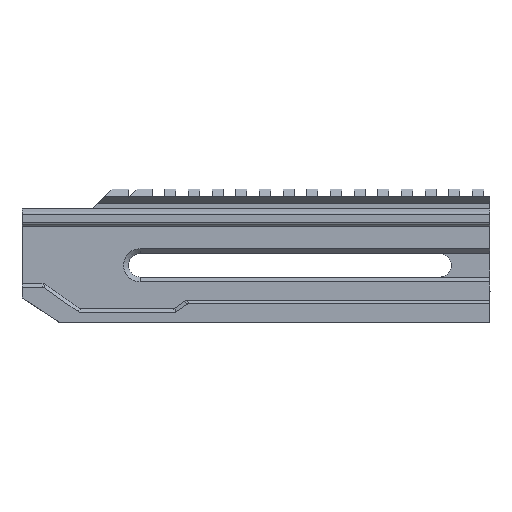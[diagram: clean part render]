
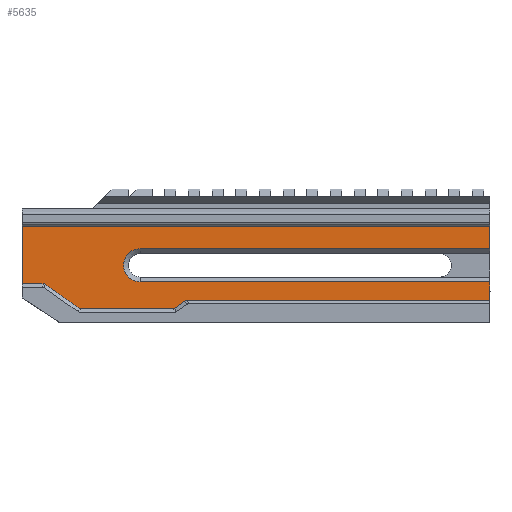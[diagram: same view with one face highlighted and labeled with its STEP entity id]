
A CAD part, left-side view. The second image highlights one B-rep face of the part: STEP entity #5635.
In plain terms, the highlighted planar face has unit normal (-1, 0, 0).
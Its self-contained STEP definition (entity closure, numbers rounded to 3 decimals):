
#314=CARTESIAN_POINT('',(-17.329,422.02,-10.298));
#315=VERTEX_POINT('',#314);
#322=CARTESIAN_POINT('',(-17.329,422.02,19.947));
#323=VERTEX_POINT('',#322);
#324=CARTESIAN_POINT('',(-17.329,422.02,19.947));
#325=DIRECTION('',(-0.,-0.,-1.));
#326=VECTOR('',#325,30.244);
#327=LINE('',#324,#326);
#328=EDGE_CURVE('',#323,#315,#327,.T.);
#763=CARTESIAN_POINT('',(-17.329,358.366,-14.821));
#764=VERTEX_POINT('',#763);
#765=CARTESIAN_POINT('',(-17.329,396.819,-14.821));
#766=VERTEX_POINT('',#765);
#767=CARTESIAN_POINT('',(-17.329,358.366,-14.821));
#768=DIRECTION('',(0.,1.,0.));
#769=VECTOR('',#768,38.453);
#770=LINE('',#767,#769);
#771=EDGE_CURVE('',#764,#766,#770,.T.);
#813=CARTESIAN_POINT('',(-17.329,397.966,-14.46));
#814=VERTEX_POINT('',#813);
#821=CARTESIAN_POINT('',(-17.329,412.001,-4.632));
#822=VERTEX_POINT('',#821);
#823=CARTESIAN_POINT('',(-17.329,397.966,-14.46));
#824=DIRECTION('',(0.,0.819,0.574));
#825=VECTOR('',#824,17.134);
#826=LINE('',#823,#825);
#827=EDGE_CURVE('',#814,#822,#826,.T.);
#853=CARTESIAN_POINT('',(-17.329,413.148,-4.271));
#854=VERTEX_POINT('',#853);
#861=CARTESIAN_POINT('',(-17.329,422.018,-4.271));
#862=VERTEX_POINT('',#861);
#863=CARTESIAN_POINT('',(-17.329,413.148,-4.271));
#864=DIRECTION('',(0.,1.,0.));
#865=VECTOR('',#864,8.869);
#866=LINE('',#863,#865);
#867=EDGE_CURVE('',#854,#862,#866,.T.);
#1065=CARTESIAN_POINT('',(-17.329,422.018,-10.299));
#1066=VERTEX_POINT('',#1065);
#1067=CARTESIAN_POINT('',(-17.329,422.018,-4.271));
#1068=DIRECTION('',(0.,0.,-1.));
#1069=VECTOR('',#1068,6.029);
#1070=LINE('',#1067,#1069);
#1071=EDGE_CURVE('',#862,#1066,#1070,.T.);
#1214=CARTESIAN_POINT('',(-17.329,422.02,-10.298));
#1215=DIRECTION('',(0.,-0.839,-0.545));
#1216=VECTOR('',#1215,0.003);
#1217=LINE('',#1214,#1216);
#1218=EDGE_CURVE('',#315,#1066,#1217,.T.);
#1515=CARTESIAN_POINT('',(-17.329,353.171,-11.625));
#1516=VERTEX_POINT('',#1515);
#1523=CARTESIAN_POINT('',(-17.329,357.219,-14.46));
#1524=VERTEX_POINT('',#1523);
#1525=CARTESIAN_POINT('',(-17.329,353.171,-11.625));
#1526=DIRECTION('',(0.,0.819,-0.574));
#1527=VECTOR('',#1526,4.942);
#1528=LINE('',#1525,#1527);
#1529=EDGE_CURVE('',#1516,#1524,#1528,.T.);
#4298=CARTESIAN_POINT('',(-17.329,224.32,-11.264));
#4299=VERTEX_POINT('',#4298);
#4300=CARTESIAN_POINT('',(-17.329,352.024,-11.264));
#4301=VERTEX_POINT('',#4300);
#4302=CARTESIAN_POINT('',(-17.329,224.32,-11.264));
#4303=DIRECTION('',(0.,1.,0.));
#4304=VECTOR('',#4303,127.704);
#4305=LINE('',#4302,#4304);
#4306=EDGE_CURVE('',#4299,#4301,#4305,.T.);
#5533=CARTESIAN_POINT('',(-17.329,224.32,19.947));
#5534=VERTEX_POINT('',#5533);
#5535=CARTESIAN_POINT('',(-17.329,422.02,19.947));
#5536=DIRECTION('',(-0.,-1.,-0.));
#5537=VECTOR('',#5536,197.7);
#5538=LINE('',#5535,#5537);
#5539=EDGE_CURVE('',#323,#5534,#5538,.T.);
#5552=CARTESIAN_POINT('',(-17.329,456.,-13.624));
#5553=DIRECTION('',(-1.,0.,0.));
#5554=DIRECTION('',(0.,0.,1.));
#5555=AXIS2_PLACEMENT_3D('',#5552,#5553,#5554);
#5556=PLANE('',#5555);
#5557=CARTESIAN_POINT('',(-17.329,224.32,-3.483));
#5558=VERTEX_POINT('',#5557);
#5559=CARTESIAN_POINT('',(-17.329,224.32,-3.483));
#5560=DIRECTION('',(-0.,-0.,-1.));
#5561=VECTOR('',#5560,7.781);
#5562=LINE('',#5559,#5561);
#5563=EDGE_CURVE('',#5558,#4299,#5562,.T.);
#5564=ORIENTED_EDGE('',*,*,#5563,.F.);
#5565=CARTESIAN_POINT('',(-17.329,372.111,-3.483));
#5566=VERTEX_POINT('',#5565);
#5567=CARTESIAN_POINT('',(-17.329,224.32,-3.483));
#5568=DIRECTION('',(0.,1.,0.));
#5569=VECTOR('',#5568,147.791);
#5570=LINE('',#5567,#5569);
#5571=EDGE_CURVE('',#5558,#5566,#5570,.T.);
#5572=ORIENTED_EDGE('',*,*,#5571,.T.);
#5573=CARTESIAN_POINT('',(-17.329,372.111,10.517));
#5574=VERTEX_POINT('',#5573);
#5575=CARTESIAN_POINT('',(-17.329,372.111,3.517));
#5576=DIRECTION('',(1.,-0.,-0.));
#5577=DIRECTION('',(0.,0.,1.));
#5578=AXIS2_PLACEMENT_3D('',#5575,#5576,#5577);
#5579=CIRCLE('',#5578,7.);
#5580=EDGE_CURVE('',#5566,#5574,#5579,.T.);
#5581=ORIENTED_EDGE('',*,*,#5580,.T.);
#5582=CARTESIAN_POINT('',(-17.329,224.32,10.517));
#5583=VERTEX_POINT('',#5582);
#5584=CARTESIAN_POINT('',(-17.329,372.111,10.517));
#5585=DIRECTION('',(-0.,-1.,-0.));
#5586=VECTOR('',#5585,147.791);
#5587=LINE('',#5584,#5586);
#5588=EDGE_CURVE('',#5574,#5583,#5587,.T.);
#5589=ORIENTED_EDGE('',*,*,#5588,.T.);
#5590=CARTESIAN_POINT('',(-17.329,224.32,19.947));
#5591=DIRECTION('',(-0.,-0.,-1.));
#5592=VECTOR('',#5591,9.429);
#5593=LINE('',#5590,#5592);
#5594=EDGE_CURVE('',#5534,#5583,#5593,.T.);
#5595=ORIENTED_EDGE('',*,*,#5594,.F.);
#5596=ORIENTED_EDGE('',*,*,#5539,.F.);
#5597=ORIENTED_EDGE('',*,*,#328,.T.);
#5598=ORIENTED_EDGE('',*,*,#1218,.T.);
#5599=ORIENTED_EDGE('',*,*,#1071,.F.);
#5600=ORIENTED_EDGE('',*,*,#867,.F.);
#5601=CARTESIAN_POINT('',(-17.329,413.148,-6.271));
#5602=DIRECTION('',(1.,0.,0.));
#5603=DIRECTION('',(0.,0.,-1.));
#5604=AXIS2_PLACEMENT_3D('',#5601,#5602,#5603);
#5605=CIRCLE('',#5604,2.);
#5606=EDGE_CURVE('',#854,#822,#5605,.T.);
#5607=ORIENTED_EDGE('',*,*,#5606,.T.);
#5608=ORIENTED_EDGE('',*,*,#827,.F.);
#5609=CARTESIAN_POINT('',(-17.329,396.819,-12.821));
#5610=DIRECTION('',(-1.,0.,0.));
#5611=DIRECTION('',(0.,0.,1.));
#5612=AXIS2_PLACEMENT_3D('',#5609,#5610,#5611);
#5613=CIRCLE('',#5612,2.);
#5614=EDGE_CURVE('',#814,#766,#5613,.T.);
#5615=ORIENTED_EDGE('',*,*,#5614,.T.);
#5616=ORIENTED_EDGE('',*,*,#771,.F.);
#5617=CARTESIAN_POINT('',(-17.329,358.366,-12.821));
#5618=DIRECTION('',(-1.,0.,0.));
#5619=DIRECTION('',(0.,0.,1.));
#5620=AXIS2_PLACEMENT_3D('',#5617,#5618,#5619);
#5621=CIRCLE('',#5620,2.);
#5622=EDGE_CURVE('',#764,#1524,#5621,.T.);
#5623=ORIENTED_EDGE('',*,*,#5622,.T.);
#5624=ORIENTED_EDGE('',*,*,#1529,.F.);
#5625=CARTESIAN_POINT('',(-17.329,352.024,-13.264));
#5626=DIRECTION('',(1.,0.,0.));
#5627=DIRECTION('',(0.,0.,-1.));
#5628=AXIS2_PLACEMENT_3D('',#5625,#5626,#5627);
#5629=CIRCLE('',#5628,2.);
#5630=EDGE_CURVE('',#1516,#4301,#5629,.T.);
#5631=ORIENTED_EDGE('',*,*,#5630,.T.);
#5632=ORIENTED_EDGE('',*,*,#4306,.F.);
#5633=EDGE_LOOP('',(#5564,#5572,#5581,#5589,#5595,#5596,#5597,#5598,#5599,#5600,#5607,#5608,#5615,#5616,#5623,#5624,#5631,#5632));
#5634=FACE_BOUND('',#5633,.T.);
#5635=ADVANCED_FACE('',(#5634),#5556,.T.);
